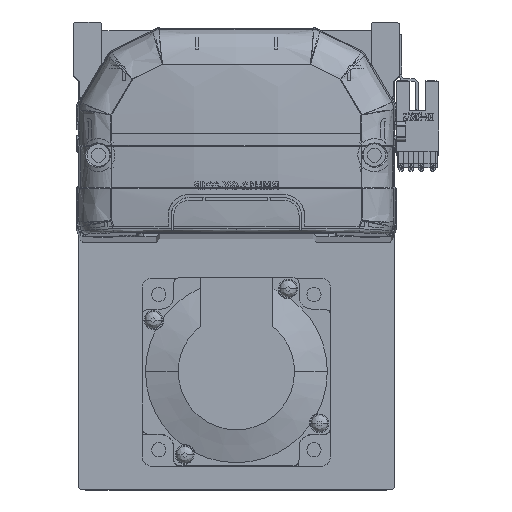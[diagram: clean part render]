
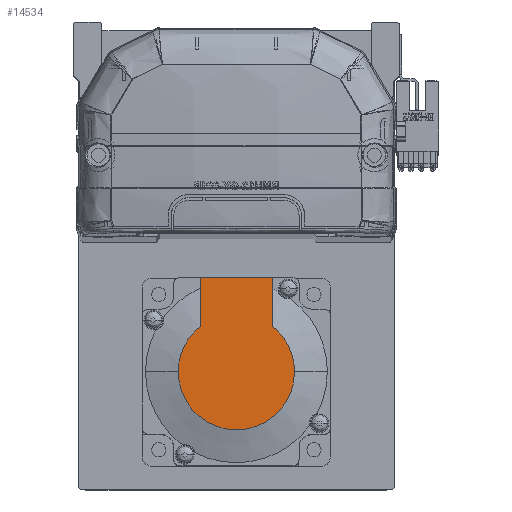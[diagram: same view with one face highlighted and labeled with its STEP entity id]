
A CAD part, top view. The second image highlights one B-rep face of the part: STEP entity #14534.
In plain terms, the highlighted planar face has unit normal (0, 0, 1) as drawn and (-1, 0, 0) by its records, which use the part's own axes.
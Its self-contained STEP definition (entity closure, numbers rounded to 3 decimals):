
#3543 = DIRECTION ( 'NONE',  ( -1., 0., 0. ) ) ;
#3660 = ORIENTED_EDGE ( 'NONE', *, *, #47268, .T. ) ;
#4860 = EDGE_LOOP ( 'NONE', ( #25176, #53037, #3660, #38123, #9089, #45719 ) ) ;
#5245 = VERTEX_POINT ( 'NONE', #59746 ) ;
#5485 = VERTEX_POINT ( 'NONE', #26795 ) ;
#6050 = CIRCLE ( 'NONE', #40708, 18.538 ) ;
#7068 = DIRECTION ( 'NONE',  ( 0., 0., -1. ) ) ;
#7530 = CARTESIAN_POINT ( 'NONE',  ( -79., 30., 11.45 ) ) ;
#9089 = ORIENTED_EDGE ( 'NONE', *, *, #45606, .F. ) ;
#9396 = CARTESIAN_POINT ( 'NONE',  ( -79., 0., 0. ) ) ;
#10426 = VECTOR ( 'NONE', #27493, 1000. ) ;
#11211 = DIRECTION ( 'NONE',  ( -1., 0., 0. ) ) ;
#12989 = AXIS2_PLACEMENT_3D ( 'NONE', #30572, #11211, #7068 ) ;
#13230 = CARTESIAN_POINT ( 'NONE',  ( -79., 0., 11.45 ) ) ;
#14151 = CARTESIAN_POINT ( 'NONE',  ( -79., 30., -11.45 ) ) ;
#14534 = ADVANCED_FACE ( 'NONE', ( #51883 ), #54022, .T. ) ;
#15075 = EDGE_CURVE ( 'NONE', #28736, #5245, #6050, .T. ) ;
#15984 = CARTESIAN_POINT ( 'NONE',  ( -79., 0., -18.538 ) ) ;
#17814 = LINE ( 'NONE', #41553, #10426 ) ;
#19192 = EDGE_CURVE ( 'NONE', #47994, #46524, #30682, .T. ) ;
#21416 = DIRECTION ( 'NONE',  ( 0., 0., 1. ) ) ;
#25176 = ORIENTED_EDGE ( 'NONE', *, *, #41695, .T. ) ;
#25357 = DIRECTION ( 'NONE',  ( -1., 0., 0. ) ) ;
#26795 = CARTESIAN_POINT ( 'NONE',  ( -79., 14.579, -11.45 ) ) ;
#27065 = CARTESIAN_POINT ( 'NONE',  ( -79., 0., 0. ) ) ;
#27115 = VECTOR ( 'NONE', #32229, 1000. ) ;
#27493 = DIRECTION ( 'NONE',  ( 0., -1., 0. ) ) ;
#28736 = VERTEX_POINT ( 'NONE', #56754 ) ;
#29447 = AXIS2_PLACEMENT_3D ( 'NONE', #27065, #3543, #32220 ) ;
#30572 = CARTESIAN_POINT ( 'NONE',  ( -79., 0., 0. ) ) ;
#30682 = LINE ( 'NONE', #31848, #53598 ) ;
#30789 = LINE ( 'NONE', #13230, #27115 ) ;
#31848 = CARTESIAN_POINT ( 'NONE',  ( -79., 30., 27. ) ) ;
#32220 = DIRECTION ( 'NONE',  ( 0., 0., -1. ) ) ;
#32229 = DIRECTION ( 'NONE',  ( 0., -1., 0. ) ) ;
#35094 = CIRCLE ( 'NONE', #12989, 18.538 ) ;
#35246 = CARTESIAN_POINT ( 'NONE',  ( -79., -9.269, 0. ) ) ;
#35559 = DIRECTION ( 'NONE',  ( 0., 0., 1. ) ) ;
#37225 = DIRECTION ( 'NONE',  ( -1., 0., 0. ) ) ;
#38123 = ORIENTED_EDGE ( 'NONE', *, *, #15075, .T. ) ;
#39064 = AXIS2_PLACEMENT_3D ( 'NONE', #35246, #25357, #21416 ) ;
#40708 = AXIS2_PLACEMENT_3D ( 'NONE', #9396, #37225, #61016 ) ;
#41553 = CARTESIAN_POINT ( 'NONE',  ( -79., -9.269, -11.45 ) ) ;
#41695 = EDGE_CURVE ( 'NONE', #47994, #5485, #17814, .T. ) ;
#43245 = EDGE_CURVE ( 'NONE', #5485, #59981, #55434, .T. ) ;
#45606 = EDGE_CURVE ( 'NONE', #46524, #5245, #30789, .T. ) ;
#45719 = ORIENTED_EDGE ( 'NONE', *, *, #19192, .F. ) ;
#46524 = VERTEX_POINT ( 'NONE', #7530 ) ;
#47268 = EDGE_CURVE ( 'NONE', #59981, #28736, #35094, .T. ) ;
#47994 = VERTEX_POINT ( 'NONE', #14151 ) ;
#51883 = FACE_OUTER_BOUND ( 'NONE', #4860, .T. ) ;
#53037 = ORIENTED_EDGE ( 'NONE', *, *, #43245, .T. ) ;
#53598 = VECTOR ( 'NONE', #35559, 1000. ) ;
#54022 = PLANE ( 'NONE',  #39064 ) ;
#55434 = CIRCLE ( 'NONE', #29447, 18.538 ) ;
#56754 = CARTESIAN_POINT ( 'NONE',  ( -79., 0., 18.538 ) ) ;
#59746 = CARTESIAN_POINT ( 'NONE',  ( -79., 14.579, 11.45 ) ) ;
#59981 = VERTEX_POINT ( 'NONE', #15984 ) ;
#61016 = DIRECTION ( 'NONE',  ( 0., 0., -1. ) ) ;
